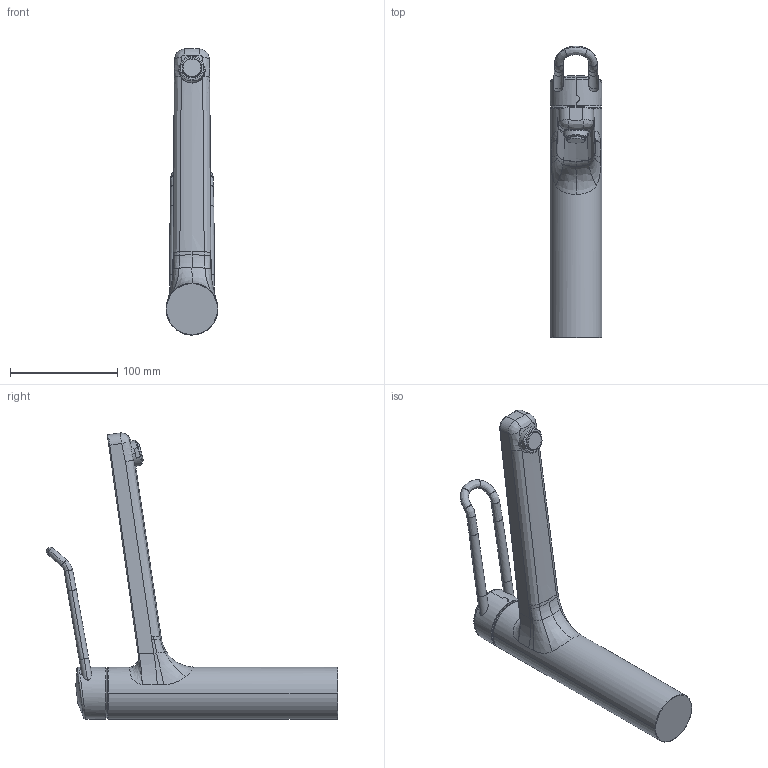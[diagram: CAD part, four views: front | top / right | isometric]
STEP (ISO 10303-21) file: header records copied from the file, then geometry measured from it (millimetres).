
FILE_DESCRIPTION((''),'2;1');
FILE_NAME('10521023','2020-08-11T11:44:48',('SN986'),(''),'CREO PARAMETRIC BY PTC INC, 2018500','CREO PARAMETRIC BY PTC INC, 2018500','');
FILE_SCHEMA(('CONFIG_CONTROL_DESIGN'));
Length unit declared in the file: millimetre
Products named in the file (1): 10521023
Bounding box: 48.5 x 272.04 x 267.19 mm (x, y, z)
Volume: 636014 mm3; surface area: 71028.2 mm2
Topology: 1 solids, 1 shells, 166 faces, 407 edges, 250 vertices
Faces by surface type: bspline 62, cylinder 33, plane 31, torus 27, cone 10, sphere 3
Entity records: 10840 total; most frequent: CARTESIAN_POINT 7384, ORIENTED_EDGE 814, DIRECTION 542, EDGE_CURVE 407, VERTEX_POINT 250, AXIS2_PLACEMENT_3D 219, B_SPLINE_CURVE_WITH_KNOTS 188, EDGE_LOOP 175
